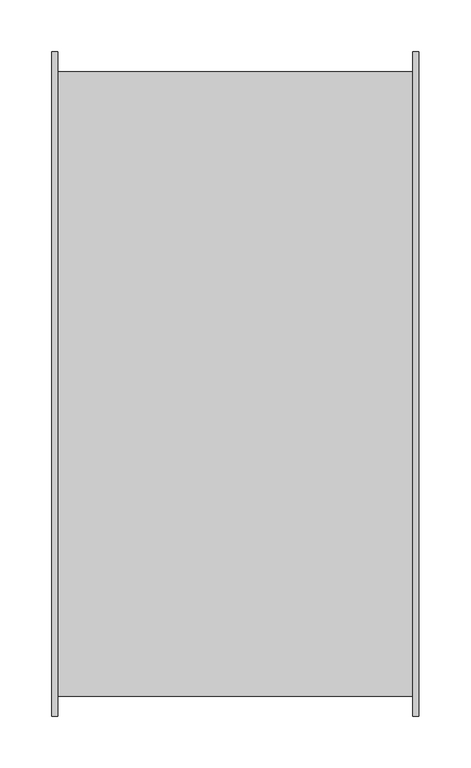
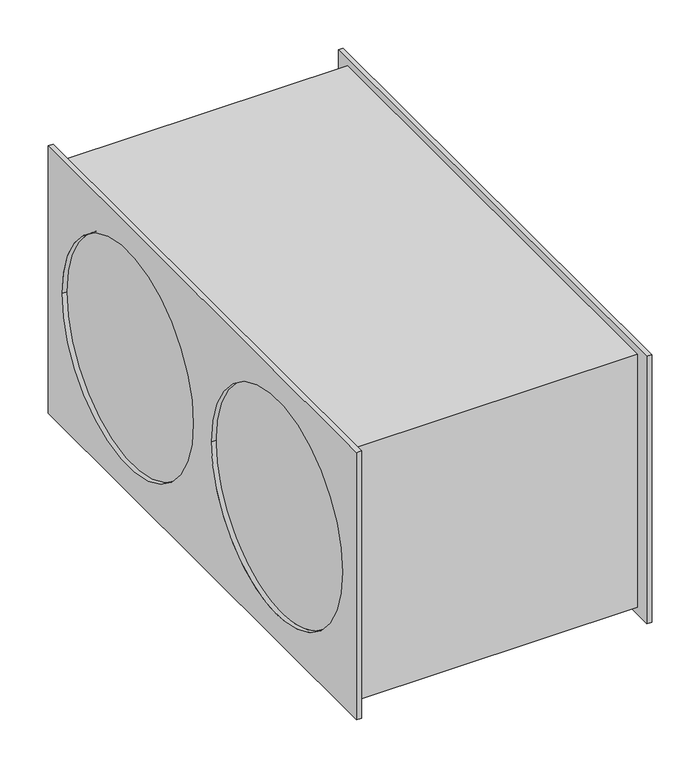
"""IFC4 building model written with IfcOpenShell, lengths in millimetres: unitary equipment geometry, VE-Wentylator-ParaForma-Harmann-JETTEC_REC_EC-Nawiewny : 060/30/4500EC."""

from ifc_helpers import new_model, si_unit, frame, origin, place, context, project, spatial, polyline, circle_curve, source, transform, mapped, element, save
from ifc_brep_helpers import plane_surface, revolved_surface, advanced_brep


def unitary_equipment_962ad727(model_context):
    return source(origin(), model_context, "Body", "AdvancedBrep", [
        advanced_brep(
        [(170.8, -319.8, -169.0), (170.8, -319.8, 169.0), (170.8, 319.8, 169.0), (170.8, 319.8, -169.0), (170.8, -300.8, 160.2), (170.8, -300.8, -159.9), (170.8, 300.8, -159.9), (170.8, 300.8, 160.2), (176.6, -319.8, -169.0), (176.6, 319.8, -169.0), (176.6, 319.8, 169.0), (176.6, -319.8, 169.0), (176.6, -290.8, 0.0), (176.6, -18.8, 0.0), (176.6, 18.8, 0.0), (176.6, 290.8, 0.0), (170.8, -18.8, 0.0), (170.8, -290.8, 0.0), (170.8, 290.8, 0.0), (170.8, 18.8, 0.0), (-170.8, -290.8, 0.0), (-170.8, -18.8, 0.0), (-170.8, 18.8, 0.0), (-170.8, 290.8, 0.0), (-170.8, -300.8, -159.9), (-170.8, -300.8, 160.2), (-170.8, 300.8, 160.2), (-170.8, 300.8, -159.9), (-176.6, -319.8, -169.0), (-176.6, -319.8, 169.0), (-176.6, 319.8, 169.0), (-176.6, 319.8, -169.0), (-176.6, -18.8, 0.0), (-176.6, -290.8, 0.0), (-176.6, 290.8, 0.0), (-176.6, 18.8, 0.0), (-170.8, -319.8, -169.0), (-170.8, 319.8, -169.0), (-170.8, 319.8, 169.0), (-170.8, -319.8, 169.0)],
        [
            (0, 1),
            (1, 2),
            (2, 3),
            (3, 0),
            (4, 5),
            (5, 6),
            (6, 7),
            (7, 4),
            (8, 9),
            (9, 10),
            (10, 11),
            (11, 8),
            (12, 13, circle_curve(frame((176.6, -154.8, 0.0), z_axis=(-1.0, 0.0, 0.0), x_axis=(0.0, 1.0, 0.0)), 136.0)),
            (13, 12, circle_curve(frame((176.6, -154.8, 0.0), z_axis=(-1.0, 0.0, 0.0), x_axis=(0.0, 1.0, 0.0)), 136.0)),
            (14, 15, circle_curve(frame((176.6, 154.8, 0.0), z_axis=(-1.0, 0.0, 0.0), x_axis=(0.0, 1.0, 0.0)), 136.0)),
            (15, 14, circle_curve(frame((176.6, 154.8, 0.0), z_axis=(-1.0, 0.0, 0.0), x_axis=(0.0, 1.0, 0.0)), 136.0)),
            (0, 8),
            (11, 1),
            (10, 2),
            (9, 3),
            (16, 13),
            (12, 17),
            (17, 16, circle_curve(frame((170.8, -154.8, 0.0), z_axis=(-1.0, 0.0, 0.0), x_axis=(0.0, 1.0, 0.0)), 136.0)),
            (16, 17, circle_curve(frame((170.8, -154.8, 0.0), z_axis=(-1.0, 0.0, 0.0), x_axis=(0.0, 1.0, 0.0)), 136.0)),
            (18, 15),
            (14, 19),
            (19, 18, circle_curve(frame((170.8, 154.8, 0.0), z_axis=(-1.0, 0.0, 0.0), x_axis=(0.0, 1.0, 0.0)), 136.0)),
            (18, 19, circle_curve(frame((170.8, 154.8, 0.0), z_axis=(-1.0, 0.0, 0.0), x_axis=(0.0, 1.0, 0.0)), 136.0)),
            (20, 21, circle_curve(frame((-170.8, -154.8, 0.0), z_axis=(-1.0, 0.0, 0.0), x_axis=(0.0, 1.0, 0.0)), 136.0)),
            (21, 20, circle_curve(frame((-170.8, -154.8, 0.0), z_axis=(-1.0, 0.0, 0.0), x_axis=(0.0, 1.0, 0.0)), 136.0)),
            (22, 23, circle_curve(frame((-170.8, 154.8, 0.0), z_axis=(-1.0, 0.0, 0.0), x_axis=(0.0, 1.0, 0.0)), 136.0)),
            (23, 22, circle_curve(frame((-170.8, 154.8, 0.0), z_axis=(-1.0, 0.0, 0.0), x_axis=(0.0, 1.0, 0.0)), 136.0)),
            (24, 5),
            (4, 25),
            (25, 24),
            (7, 26),
            (26, 25),
            (6, 27),
            (27, 26),
            (24, 27),
            (28, 29),
            (29, 30),
            (30, 31),
            (31, 28),
            (32, 33, circle_curve(frame((-176.6, -154.8, 0.0), z_axis=(1.0, 0.0, 0.0), x_axis=(0.0, 1.0, 0.0)), 136.0)),
            (33, 32, circle_curve(frame((-176.6, -154.8, 0.0), z_axis=(1.0, 0.0, 0.0), x_axis=(0.0, 1.0, 0.0)), 136.0)),
            (34, 35, circle_curve(frame((-176.6, 154.8, 0.0), z_axis=(1.0, 0.0, 0.0), x_axis=(0.0, 1.0, 0.0)), 136.0)),
            (35, 34, circle_curve(frame((-176.6, 154.8, 0.0), z_axis=(1.0, 0.0, 0.0), x_axis=(0.0, 1.0, 0.0)), 136.0)),
            (36, 37),
            (37, 38),
            (38, 39),
            (39, 36),
            (28, 36),
            (39, 29),
            (38, 30),
            (37, 31),
            (32, 21),
            (20, 33),
            (34, 23),
            (22, 35),
        ],
        [
            plane_surface(frame((170.8, 0.0, 0.0), z_axis=(-1.0, 0.0, 0.0), x_axis=(0.0, 0.0, 1.0))),
            plane_surface(frame((176.6, 0.0, 0.0), z_axis=(1.0, 0.0, 0.0), x_axis=(0.0, 0.0, 1.0))),
            plane_surface(frame((170.8, -319.8, -169.0), z_axis=(0.0, -1.0, 0.0), x_axis=(1.0, 0.0, 0.0))),
            plane_surface(frame((170.8, -319.8, 169.0), z_axis=(0.0, 0.0, 1.0), x_axis=(1.0, 0.0, 0.0))),
            plane_surface(frame((170.8, 319.8, 169.0), z_axis=(0.0, 1.0, 0.0), x_axis=(1.0, 0.0, 0.0))),
            plane_surface(frame((170.8, 319.8, -169.0), z_axis=(0.0, 0.0, -1.0), x_axis=(1.0, 0.0, 0.0))),
            revolved_surface(polyline([(170.8, -18.80000000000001, 0.0), (176.6, -18.80000000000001, 0.0)]), (170.8, -154.8, 0.0), (-1.0, 0.0, 0.0)),
            revolved_surface(polyline([(170.8, 290.8, 0.0), (176.6, 290.8, 0.0)]), (170.8, 154.8, 0.0), (-1.0, 0.0, 0.0)),
            plane_surface(frame((-170.8, 0.0, 0.0), z_axis=(-1.0, 0.0, 0.0), x_axis=(0.0, 0.0, 1.0))),
            plane_surface(frame((170.8, 0.0, 0.0), z_axis=(1.0, 0.0, 0.0), x_axis=(0.0, 0.0, 1.0))),
            plane_surface(frame((-170.8, -300.8, -159.9), z_axis=(0.0, -1.0, 0.0), x_axis=(1.0, 0.0, 0.0))),
            plane_surface(frame((-170.8, -300.8, 160.2), z_axis=(0.0, 0.0, 1.0), x_axis=(1.0, 0.0, 0.0))),
            plane_surface(frame((-170.8, 300.8, 160.2), z_axis=(0.0, 1.0, 0.0), x_axis=(1.0, 0.0, 0.0))),
            plane_surface(frame((-170.8, 300.8, -159.9), z_axis=(0.0, 0.0, -1.0), x_axis=(1.0, 0.0, 0.0))),
            plane_surface(frame((-176.6, 0.0, 0.0), z_axis=(-1.0, 0.0, 0.0), x_axis=(0.0, 0.0, 1.0))),
            plane_surface(frame((-170.8, 0.0, 0.0), z_axis=(1.0, 0.0, 0.0), x_axis=(0.0, 0.0, 1.0))),
            plane_surface(frame((-176.6, -319.8, -169.0), z_axis=(0.0, -1.0, 0.0), x_axis=(1.0, 0.0, 0.0))),
            plane_surface(frame((-176.6, -319.8, 169.0), z_axis=(0.0, 0.0, 1.0), x_axis=(1.0, 0.0, 0.0))),
            plane_surface(frame((-176.6, 319.8, 169.0), z_axis=(0.0, 1.0, 0.0), x_axis=(1.0, 0.0, 0.0))),
            plane_surface(frame((-176.6, 319.8, -169.0), z_axis=(0.0, 0.0, -1.0), x_axis=(1.0, 0.0, 0.0))),
            revolved_surface(polyline([(-176.6, -18.80000000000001, 0.0), (-170.8, -18.80000000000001, 0.0)]), (-176.6, -154.8, 0.0), (-1.0, 0.0, 0.0)),
            revolved_surface(polyline([(-176.6, 290.8, 0.0), (-170.8, 290.8, 0.0)]), (-176.6, 154.8, 0.0), (-1.0, 0.0, 0.0)),
        ],
        [
            (0, [[1, 2, 3, 4], [5, 6, 7, 8]]),
            (1, [[9, 10, 11, 12], [13, 14], [15, 16]]),
            (2, [[-1, 17, -12, 18]]),
            (3, [[-2, -18, -11, 19]]),
            (4, [[-3, -19, -10, 20]]),
            (5, [[-4, -20, -9, -17]]),
            (6, [[21, -13, 22, 23]]),
            (6, [[-21, 24, -22, -14]]),
            (7, [[25, -15, 26, 27]]),
            (7, [[-25, 28, -26, -16]]),
            (8, [[29, 30]]),
            (8, [[31, 32]]),
            (9, [[-23, -24]]),
            (9, [[-27, -28]]),
            (10, [[33, -5, 34, 35]]),
            (11, [[-34, -8, 36, 37]]),
            (12, [[-36, -7, 38, 39]]),
            (13, [[-33, 40, -38, -6]]),
            (14, [[41, 42, 43, 44], [45, 46], [47, 48]]),
            (15, [[49, 50, 51, 52], [-35, -37, -39, -40]]),
            (16, [[-41, 53, -52, 54]]),
            (17, [[-42, -54, -51, 55]]),
            (18, [[-43, -55, -50, 56]]),
            (19, [[-44, -56, -49, -53]]),
            (20, [[57, -29, 58, -45]]),
            (20, [[-57, -46, -58, -30]]),
            (21, [[59, -31, 60, -47]]),
            (21, [[-59, -48, -60, -32]]),
        ],
    ),
    ])


if __name__ == "__main__":
    model = new_model("IFC4")
    model_context = context("Model", 3, world=origin())
    ifc_project = project(units=[si_unit("LENGTHUNIT", "METRE", prefix="MILLI")], contexts=[model_context])
    site = spatial("IfcSite", under=ifc_project)
    building = spatial("IfcBuilding", under=site)
    placement = place(None, origin())
    unitary_equipment_shape = unitary_equipment_962ad727(model_context)
    element("IfcUnitaryEquipment", 1, ObjectType="VE-Wentylator-ParaForma-Harmann-JETTEC_REC_EC-Nawiewny : 060/30/4500EC", at=placement, inside=building, context=model_context, shape_type="MappedRepresentation", body=[
        mapped(unitary_equipment_shape, transform((0.0, 0.0, 0.0), x_axis=(1.0, 0.0, 0.0), y_axis=(0.0, 1.0, 0.0), z_axis=(0.0, 0.0, 1.0))),
    ])
    save(model, "model.ifc")
